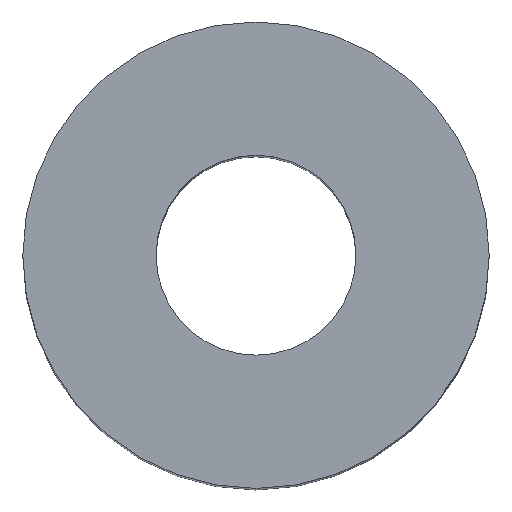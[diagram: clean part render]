
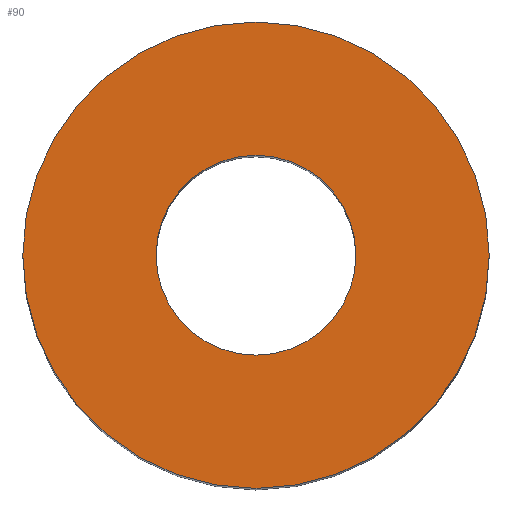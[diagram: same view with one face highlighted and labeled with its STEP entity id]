
A CAD part, top view. The second image highlights one B-rep face of the part: STEP entity #90.
In plain terms, the highlighted planar face has unit normal (0, 0, 1).
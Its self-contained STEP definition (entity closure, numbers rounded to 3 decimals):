
#20 = CARTESIAN_POINT ( 'NONE',  ( 14., 0., 54. ) ) ;
#24 = CARTESIAN_POINT ( 'NONE',  ( 0., 0., 54. ) ) ;
#27 = EDGE_LOOP ( 'NONE', ( #174, #159 ) ) ;
#31 = CIRCLE ( 'NONE', #147, 6. ) ;
#35 = EDGE_CURVE ( 'NONE', #110, #143, #52, .T. ) ;
#44 = AXIS2_PLACEMENT_3D ( 'NONE', #24, #53, #87 ) ;
#52 = CIRCLE ( 'NONE', #44, 14. ) ;
#53 = DIRECTION ( 'NONE',  ( 0., 0., 1. ) ) ;
#54 = DIRECTION ( 'NONE',  ( 1., 0., 0. ) ) ;
#66 = DIRECTION ( 'NONE',  ( 0., 0., 1. ) ) ;
#67 = DIRECTION ( 'NONE',  ( 0., 0., 1. ) ) ;
#74 = FACE_OUTER_BOUND ( 'NONE', #27, .T. ) ;
#75 = CARTESIAN_POINT ( 'NONE',  ( 0., 0., 54. ) ) ;
#87 = DIRECTION ( 'NONE',  ( 1., 0., 0. ) ) ;
#90 = ADVANCED_FACE ( 'NONE', ( #74, #117 ), #111, .T. ) ;
#95 = EDGE_CURVE ( 'NONE', #121, #126, #191, .T. ) ;
#105 = EDGE_CURVE ( 'NONE', #126, #121, #31, .T. ) ;
#110 = VERTEX_POINT ( 'NONE', #20 ) ;
#111 = PLANE ( 'NONE',  #194 ) ;
#117 = FACE_BOUND ( 'NONE', #188, .T. ) ;
#121 = VERTEX_POINT ( 'NONE', #209 ) ;
#126 = VERTEX_POINT ( 'NONE', #172 ) ;
#127 = DIRECTION ( 'NONE',  ( 0., 0., 1. ) ) ;
#132 = ORIENTED_EDGE ( 'NONE', *, *, #105, .F. ) ;
#134 = ORIENTED_EDGE ( 'NONE', *, *, #95, .F. ) ;
#143 = VERTEX_POINT ( 'NONE', #153 ) ;
#147 = AXIS2_PLACEMENT_3D ( 'NONE', #185, #66, #195 ) ;
#153 = CARTESIAN_POINT ( 'NONE',  ( -14., 0., 54. ) ) ;
#158 = DIRECTION ( 'NONE',  ( 0., 0., 1. ) ) ;
#159 = ORIENTED_EDGE ( 'NONE', *, *, #35, .T. ) ;
#168 = DIRECTION ( 'NONE',  ( 1., 0., 0. ) ) ;
#172 = CARTESIAN_POINT ( 'NONE',  ( -6., 0., 54. ) ) ;
#174 = ORIENTED_EDGE ( 'NONE', *, *, #202, .T. ) ;
#176 = CARTESIAN_POINT ( 'NONE',  ( 0., 0., 54. ) ) ;
#178 = CARTESIAN_POINT ( 'NONE',  ( 0., 0., 54. ) ) ;
#185 = CARTESIAN_POINT ( 'NONE',  ( 0., 0., 54. ) ) ;
#188 = EDGE_LOOP ( 'NONE', ( #132, #134 ) ) ;
#189 = AXIS2_PLACEMENT_3D ( 'NONE', #178, #127, #168 ) ;
#190 = AXIS2_PLACEMENT_3D ( 'NONE', #75, #67, #196 ) ;
#191 = CIRCLE ( 'NONE', #190, 6. ) ;
#194 = AXIS2_PLACEMENT_3D ( 'NONE', #176, #158, #54 ) ;
#195 = DIRECTION ( 'NONE',  ( 1., 0., 0. ) ) ;
#196 = DIRECTION ( 'NONE',  ( 1., 0., 0. ) ) ;
#202 = EDGE_CURVE ( 'NONE', #143, #110, #213, .T. ) ;
#209 = CARTESIAN_POINT ( 'NONE',  ( 6., 0., 54. ) ) ;
#213 = CIRCLE ( 'NONE', #189, 14. ) ;
